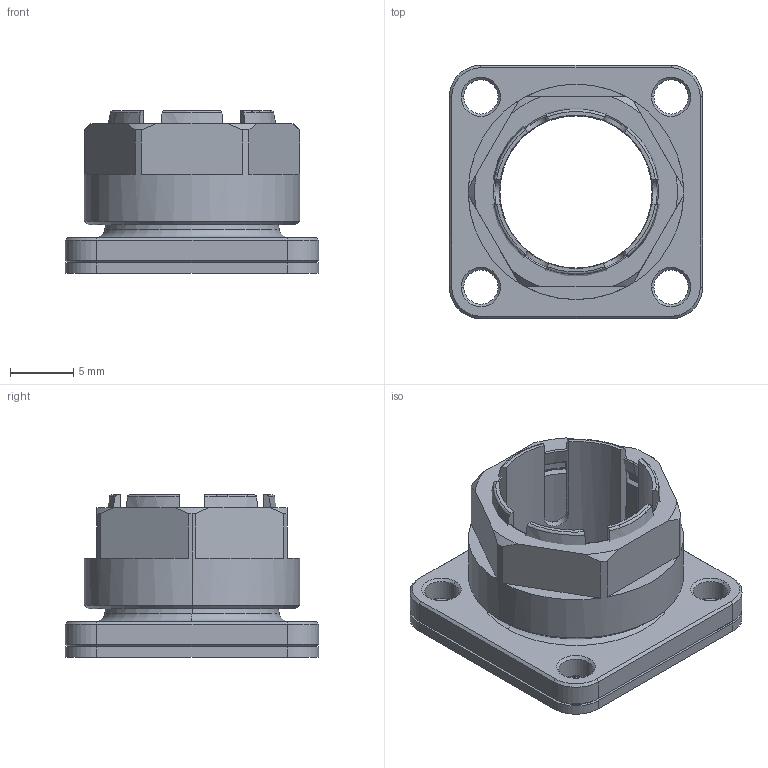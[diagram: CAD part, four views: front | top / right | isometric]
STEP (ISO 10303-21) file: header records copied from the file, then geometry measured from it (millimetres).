
FILE_DESCRIPTION((''),'2;1');
FILE_NAME('0000064065_ASM','2015-03-03T',('11000509'),(''),'PRO/ENGINEER BY PARAMETRIC TECHNOLOGY CORPORATION, 2013230','PRO/ENGINEER BY PARAMETRIC TECHNOLOGY CORPORATION, 2013230','');
FILE_SCHEMA(('AUTOMOTIVE_DESIGN { 1 0 10303 214 1 1 1 1 }'));
Length unit declared in the file: millimetre
Products named in the file (5): 0000064054; 0000064049; 0000034771; 0000064066; 0000064065_ASM
Assembly tree (4 placements, depth 2):
  0000064065_ASM
    0000064054
    0000064049
    0000034771
    0000064066
Bounding box: 20 x 20 x 12.8 mm (x, y, z)
Volume: 1473 mm3; surface area: 3551.4 mm2
Topology: 4 solids, 11 shells, 197 faces, 508 edges, 326 vertices
Faces by surface type: cylinder 60, plane 55, cone 52, torus 30
Entity records: 10673 total; most frequent: CARTESIAN_POINT 1455, DIRECTION 1096, ORIENTED_EDGE 986, PRESENTATION_STYLE_ASSIGNMENT 516, STYLED_ITEM 516, CURVE_STYLE 508, EDGE_CURVE 508, PROPERTY_DEFINITION 451
